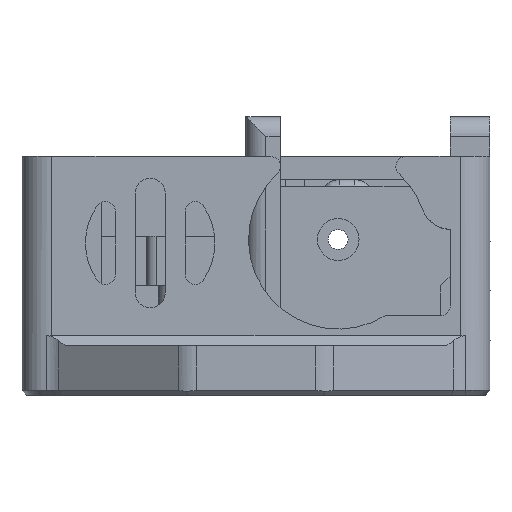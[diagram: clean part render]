
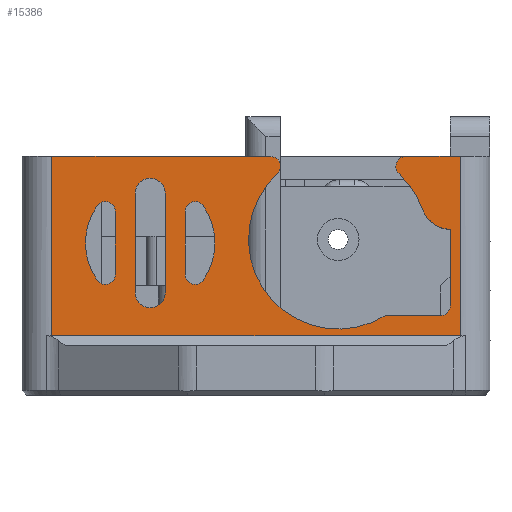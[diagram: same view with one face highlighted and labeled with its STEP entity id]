
A CAD part, left-side view. The second image highlights one B-rep face of the part: STEP entity #15386.
In plain terms, the highlighted planar face has unit normal (-1, 0, 0).
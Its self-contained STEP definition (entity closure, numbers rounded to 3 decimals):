
#986=DIRECTION('',(0.,-1.,0.));
#987=VECTOR('',#986,41.);
#988=CARTESIAN_POINT('',(-45.,107.5,4.));
#989=LINE('',#988,#987);
#990=DIRECTION('',(0.,0.,1.));
#991=VECTOR('',#990,18.);
#992=CARTESIAN_POINT('',(-45.,107.5,4.));
#993=LINE('',#992,#991);
#994=DIRECTION('',(0.,-1.,0.));
#995=VECTOR('',#994,21.957);
#996=CARTESIAN_POINT('',(-45.,107.5,22.));
#997=LINE('',#996,#995);
#998=CARTESIAN_POINT('',(-45.,85.543,21.));
#999=DIRECTION('',(1.,0.,0.));
#1000=DIRECTION('',(0.,0.,1.));
#1001=AXIS2_PLACEMENT_3D('',#998,#999,#1000);
#1003=CARTESIAN_POINT('',(-45.,78.75,13.661));
#1004=DIRECTION('',(-1.,0.,0.));
#1005=DIRECTION('',(0.,0.679,0.734));
#1006=AXIS2_PLACEMENT_3D('',#1003,#1004,#1005);
#1008=CARTESIAN_POINT('',(-45.,68.5,7.));
#1009=DIRECTION('',(-1.,0.,0.));
#1010=DIRECTION('',(0.,0.,-1.));
#1011=AXIS2_PLACEMENT_3D('',#1008,#1009,#1010);
#1013=CARTESIAN_POINT('',(-45.,67.44,17.672));
#1014=DIRECTION('',(1.,0.,0.));
#1015=DIRECTION('',(0.,0.02,-1.));
#1016=AXIS2_PLACEMENT_3D('',#1013,#1014,#1015);
#1018=CARTESIAN_POINT('',(-45.,78.75,13.661));
#1019=DIRECTION('',(-1.,0.,0.));
#1020=DIRECTION('',(0.,-0.943,0.334));
#1021=AXIS2_PLACEMENT_3D('',#1018,#1019,#1020);
#1023=CARTESIAN_POINT('',(-45.,71.957,21.));
#1024=DIRECTION('',(1.,0.,0.));
#1025=DIRECTION('',(0.,0.679,-0.734));
#1026=AXIS2_PLACEMENT_3D('',#1023,#1024,#1025);
#1028=DIRECTION('',(0.,-1.,0.));
#1029=VECTOR('',#1028,5.457);
#1030=CARTESIAN_POINT('',(-45.,71.957,22.));
#1031=LINE('',#1030,#1029);
#1032=DIRECTION('',(0.,0.,1.));
#1033=VECTOR('',#1032,10.);
#1034=CARTESIAN_POINT('',(-45.,96.125,8.308));
#1035=LINE('',#1034,#1033);
#1036=CARTESIAN_POINT('',(-45.,97.625,18.308));
#1037=DIRECTION('',(-1.,0.,0.));
#1038=DIRECTION('',(0.,-1.,0.));
#1039=AXIS2_PLACEMENT_3D('',#1036,#1037,#1038);
#1041=DIRECTION('',(0.,0.,-1.));
#1042=VECTOR('',#1041,10.);
#1043=CARTESIAN_POINT('',(-45.,99.125,18.308));
#1044=LINE('',#1043,#1042);
#1045=CARTESIAN_POINT('',(-45.,97.625,8.308));
#1046=DIRECTION('',(-1.,0.,0.));
#1047=DIRECTION('',(0.,1.,0.));
#1048=AXIS2_PLACEMENT_3D('',#1045,#1046,#1047);
#1050=DIRECTION('',(0.,0.,1.));
#1051=VECTOR('',#1050,6.325);
#1052=CARTESIAN_POINT('',(-45.,101.125,10.145));
#1053=LINE('',#1052,#1051);
#1054=DIRECTION('',(0.,0.,-1.));
#1055=VECTOR('',#1054,6.325);
#1056=CARTESIAN_POINT('',(-45.,94.125,16.47));
#1057=LINE('',#1056,#1055);
#1070=CARTESIAN_POINT('',(-45.,107.5,4.));
#3319=CARTESIAN_POINT('',(-45.,102.125,16.47));
#3320=DIRECTION('',(1.,0.,0.));
#3321=DIRECTION('',(0.,0.818,0.575));
#3322=AXIS2_PLACEMENT_3D('',#3319,#3320,#3321);
#4316=CARTESIAN_POINT('',(-45.,102.125,10.145));
#4317=DIRECTION('',(1.,0.,0.));
#4318=DIRECTION('',(0.,-1.,0.));
#4319=AXIS2_PLACEMENT_3D('',#4316,#4317,#4318);
#4334=CARTESIAN_POINT('',(-45.,97.625,13.308));
#4335=DIRECTION('',(1.,0.,0.));
#4336=DIRECTION('',(0.,0.818,-0.575));
#4337=AXIS2_PLACEMENT_3D('',#4334,#4335,#4336);
#4352=CARTESIAN_POINT('',(-45.,97.625,13.308));
#4353=DIRECTION('',(1.,0.,0.));
#4354=DIRECTION('',(0.,-0.818,0.575));
#4355=AXIS2_PLACEMENT_3D('',#4352,#4353,#4354);
#4362=CARTESIAN_POINT('',(-45.,93.125,10.145));
#4363=DIRECTION('',(1.,0.,0.));
#4364=DIRECTION('',(0.,-0.818,-0.575));
#4365=AXIS2_PLACEMENT_3D('',#4362,#4363,#4364);
#4375=CARTESIAN_POINT('',(-45.,93.125,16.47));
#4376=DIRECTION('',(1.,0.,0.));
#4377=DIRECTION('',(0.,1.,0.));
#4378=AXIS2_PLACEMENT_3D('',#4375,#4376,#4377);
#4691=DIRECTION('',(0.,0.,-1.));
#4692=VECTOR('',#4691,7.672);
#4693=CARTESIAN_POINT('',(-45.,67.5,14.672));
#4694=LINE('',#4693,#4692);
#5092=CARTESIAN_POINT('',(-45.,66.5,4.));
#5094=DIRECTION('',(0.,0.,1.));
#5095=VECTOR('',#5094,18.);
#5096=CARTESIAN_POINT('',(-45.,66.5,4.));
#5097=LINE('',#5096,#5095);
#8109=DIRECTION('',(0.,1.,0.));
#8110=VECTOR('',#8109,5.527);
#8111=CARTESIAN_POINT('',(-45.,68.5,6.));
#8112=LINE('',#8111,#8110);
#11516=CARTESIAN_POINT('',(-45.,67.5,14.672));
#11517=VERTEX_POINT('',#11516);
#11518=CARTESIAN_POINT('',(-45.,67.5,7.));
#11519=VERTEX_POINT('',#11518);
#12054=CARTESIAN_POINT('',(-45.,66.5,22.));
#12055=VERTEX_POINT('',#12054);
#12056=CARTESIAN_POINT('',(-45.,71.957,22.));
#12057=VERTEX_POINT('',#12056);
#12066=CARTESIAN_POINT('',(-45.,85.543,22.));
#12067=VERTEX_POINT('',#12066);
#12068=CARTESIAN_POINT('',(-45.,107.5,22.));
#12069=VERTEX_POINT('',#12068);
#12108=CARTESIAN_POINT('',(-45.,70.267,16.669));
#12109=VERTEX_POINT('',#12108);
#12115=CARTESIAN_POINT('',(-45.,84.864,20.266));
#12116=VERTEX_POINT('',#12115);
#12117=CARTESIAN_POINT('',(-45.,74.027,6.));
#12118=VERTEX_POINT('',#12117);
#12119=CARTESIAN_POINT('',(-45.,72.636,20.266));
#12120=VERTEX_POINT('',#12119);
#12121=CARTESIAN_POINT('',(-45.,68.5,6.));
#12122=VERTEX_POINT('',#12121);
#12758=VERTEX_POINT('',#1070);
#12760=VERTEX_POINT('',#5092);
#14093=CARTESIAN_POINT('',(-45.,96.125,8.308));
#14095=VERTEX_POINT('',#14093);
#14097=CARTESIAN_POINT('',(-45.,96.125,18.308));
#14099=VERTEX_POINT('',#14097);
#14101=CARTESIAN_POINT('',(-45.,99.125,18.308));
#14103=VERTEX_POINT('',#14101);
#14105=CARTESIAN_POINT('',(-45.,99.125,8.308));
#14107=VERTEX_POINT('',#14105);
#14118=CARTESIAN_POINT('',(-45.,101.125,16.47));
#14120=VERTEX_POINT('',#14118);
#14125=CARTESIAN_POINT('',(-45.,102.943,17.045));
#14126=VERTEX_POINT('',#14125);
#14131=CARTESIAN_POINT('',(-45.,101.125,10.145));
#14133=VERTEX_POINT('',#14131);
#14135=CARTESIAN_POINT('',(-45.,102.943,9.57));
#14136=VERTEX_POINT('',#14135);
#14140=CARTESIAN_POINT('',(-45.,94.125,10.145));
#14142=VERTEX_POINT('',#14140);
#14144=CARTESIAN_POINT('',(-45.,92.307,9.57));
#14146=VERTEX_POINT('',#14144);
#14147=CARTESIAN_POINT('',(-45.,94.125,16.47));
#14149=VERTEX_POINT('',#14147);
#14151=CARTESIAN_POINT('',(-45.,92.307,17.045));
#14153=VERTEX_POINT('',#14151);
#15324=CARTESIAN_POINT('',(-45.,64.5,0.));
#15325=DIRECTION('',(1.,0.,0.));
#15326=DIRECTION('',(0.,1.,0.));
#15327=AXIS2_PLACEMENT_3D('',#15324,#15325,#15326);
#15328=PLANE('',#15327);
#15329=ORIENTED_EDGE('',*,*,#15307,.F.);
#15331=ORIENTED_EDGE('',*,*,#15330,.T.);
#15333=ORIENTED_EDGE('',*,*,#15332,.T.);
#15335=ORIENTED_EDGE('',*,*,#15334,.T.);
#15337=ORIENTED_EDGE('',*,*,#15336,.T.);
#15339=ORIENTED_EDGE('',*,*,#15338,.F.);
#15341=ORIENTED_EDGE('',*,*,#15340,.T.);
#15343=ORIENTED_EDGE('',*,*,#15342,.F.);
#15345=ORIENTED_EDGE('',*,*,#15344,.T.);
#15347=ORIENTED_EDGE('',*,*,#15346,.T.);
#15349=ORIENTED_EDGE('',*,*,#15348,.T.);
#15351=ORIENTED_EDGE('',*,*,#15350,.T.);
#15353=ORIENTED_EDGE('',*,*,#15352,.F.);
#15354=EDGE_LOOP('',(#15329,#15331,#15333,#15335,#15337,#15339,#15341,#15343,
#15345,#15347,#15349,#15351,#15353));
#15355=FACE_OUTER_BOUND('',#15354,.F.);
#15357=ORIENTED_EDGE('',*,*,#15356,.T.);
#15359=ORIENTED_EDGE('',*,*,#15358,.T.);
#15361=ORIENTED_EDGE('',*,*,#15360,.T.);
#15363=ORIENTED_EDGE('',*,*,#15362,.T.);
#15364=EDGE_LOOP('',(#15357,#15359,#15361,#15363));
#15365=FACE_BOUND('',#15364,.F.);
#15367=ORIENTED_EDGE('',*,*,#15366,.F.);
#15369=ORIENTED_EDGE('',*,*,#15368,.F.);
#15371=ORIENTED_EDGE('',*,*,#15370,.T.);
#15373=ORIENTED_EDGE('',*,*,#15372,.F.);
#15374=EDGE_LOOP('',(#15367,#15369,#15371,#15373));
#15375=FACE_BOUND('',#15374,.F.);
#15377=ORIENTED_EDGE('',*,*,#15376,.T.);
#15379=ORIENTED_EDGE('',*,*,#15378,.F.);
#15381=ORIENTED_EDGE('',*,*,#15380,.F.);
#15383=ORIENTED_EDGE('',*,*,#15382,.F.);
#15384=EDGE_LOOP('',(#15377,#15379,#15381,#15383));
#15385=FACE_BOUND('',#15384,.F.);
#15386=ADVANCED_FACE('',(#15355,#15365,#15375,#15385),#15328,.F.);
#1002=CIRCLE('',#1001,1.);
#1007=CIRCLE('',#1006,9.);
#1012=CIRCLE('',#1011,1.);
#1017=CIRCLE('',#1016,3.);
#1022=CIRCLE('',#1021,9.);
#1027=CIRCLE('',#1026,1.);
#1040=CIRCLE('',#1039,1.5);
#1049=CIRCLE('',#1048,1.5);
#3323=CIRCLE('',#3322,1.);
#4320=CIRCLE('',#4319,1.);
#4338=CIRCLE('',#4337,6.5);
#4356=CIRCLE('',#4355,6.5);
#4366=CIRCLE('',#4365,1.);
#4379=CIRCLE('',#4378,1.);
#15307=EDGE_CURVE('',#12758,#12760,#989,.T.);
#15330=EDGE_CURVE('',#12758,#12069,#993,.T.);
#15332=EDGE_CURVE('',#12069,#12067,#997,.T.);
#15334=EDGE_CURVE('',#12067,#12116,#1002,.T.);
#15336=EDGE_CURVE('',#12116,#12118,#1007,.T.);
#15338=EDGE_CURVE('',#12122,#12118,#8112,.T.);
#15340=EDGE_CURVE('',#12122,#11519,#1012,.T.);
#15342=EDGE_CURVE('',#11517,#11519,#4694,.T.);
#15344=EDGE_CURVE('',#11517,#12109,#1017,.T.);
#15346=EDGE_CURVE('',#12109,#12120,#1022,.T.);
#15348=EDGE_CURVE('',#12120,#12057,#1027,.T.);
#15350=EDGE_CURVE('',#12057,#12055,#1031,.T.);
#15352=EDGE_CURVE('',#12760,#12055,#5097,.T.);
#15356=EDGE_CURVE('',#14095,#14099,#1035,.T.);
#15358=EDGE_CURVE('',#14099,#14103,#1040,.T.);
#15360=EDGE_CURVE('',#14103,#14107,#1044,.T.);
#15362=EDGE_CURVE('',#14107,#14095,#1049,.T.);
#15366=EDGE_CURVE('',#14136,#14126,#4338,.T.);
#15368=EDGE_CURVE('',#14133,#14136,#4320,.T.);
#15370=EDGE_CURVE('',#14133,#14120,#1053,.T.);
#15372=EDGE_CURVE('',#14126,#14120,#3323,.T.);
#15376=EDGE_CURVE('',#14149,#14142,#1057,.T.);
#15378=EDGE_CURVE('',#14146,#14142,#4366,.T.);
#15380=EDGE_CURVE('',#14153,#14146,#4356,.T.);
#15382=EDGE_CURVE('',#14149,#14153,#4379,.T.);
